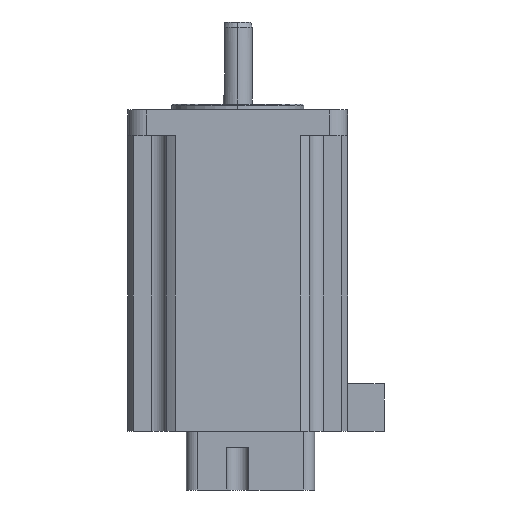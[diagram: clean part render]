
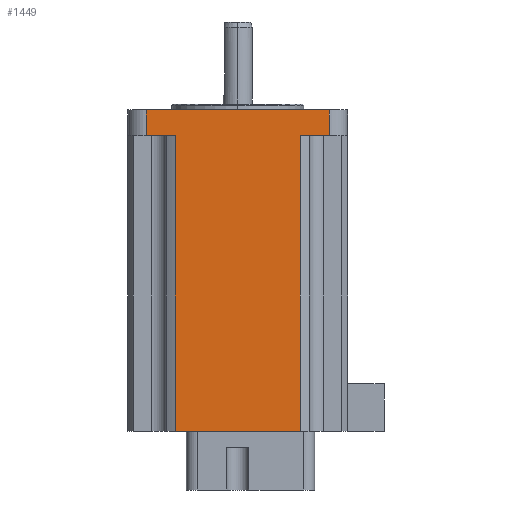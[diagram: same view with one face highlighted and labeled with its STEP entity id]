
A CAD part, left-side view. The second image highlights one B-rep face of the part: STEP entity #1449.
In plain terms, the highlighted planar face has unit normal (-1, 0, 0).
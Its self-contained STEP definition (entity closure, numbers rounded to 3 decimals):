
#62 = LINE ( 'NONE', #2259, #100 ) ;
#100 = VECTOR ( 'NONE', #2050, 1000. ) ;
#120 = LINE ( 'NONE', #530, #2473 ) ;
#132 = EDGE_CURVE ( 'NONE', #420, #1941, #2467, .T. ) ;
#181 = EDGE_LOOP ( 'NONE', ( #435, #528, #2083, #865, #507, #2332, #1094, #1195 ) ) ;
#281 = DIRECTION ( 'NONE',  ( 0., 0., -1. ) ) ;
#284 = CARTESIAN_POINT ( 'NONE',  ( -30., -25., -8.6 ) ) ;
#298 = VERTEX_POINT ( 'NONE', #1235 ) ;
#342 = CARTESIAN_POINT ( 'NONE',  ( -30., 17.037, -89.4 ) ) ;
#420 = VERTEX_POINT ( 'NONE', #2748 ) ;
#435 = ORIENTED_EDGE ( 'NONE', *, *, #2352, .F. ) ;
#460 = VECTOR ( 'NONE', #684, 1000. ) ;
#496 = VERTEX_POINT ( 'NONE', #580 ) ;
#498 = FACE_OUTER_BOUND ( 'NONE', #181, .T. ) ;
#507 = ORIENTED_EDGE ( 'NONE', *, *, #2752, .F. ) ;
#528 = ORIENTED_EDGE ( 'NONE', *, *, #132, .T. ) ;
#530 = CARTESIAN_POINT ( 'NONE',  ( -30., 17.037, -89.4 ) ) ;
#580 = CARTESIAN_POINT ( 'NONE',  ( -30., 25., -1.6 ) ) ;
#664 = DIRECTION ( 'NONE',  ( 0., 1., 0. ) ) ;
#684 = DIRECTION ( 'NONE',  ( 0., 0., 1. ) ) ;
#720 = CARTESIAN_POINT ( 'NONE',  ( -30., 30., -8.6 ) ) ;
#834 = DIRECTION ( 'NONE',  ( 0., 0., 1. ) ) ;
#865 = ORIENTED_EDGE ( 'NONE', *, *, #2334, .T. ) ;
#874 = CARTESIAN_POINT ( 'NONE',  ( -30., -17.037, -89.4 ) ) ;
#906 = CARTESIAN_POINT ( 'NONE',  ( -30., 17.037, -8.6 ) ) ;
#963 = VERTEX_POINT ( 'NONE', #906 ) ;
#1003 = LINE ( 'NONE', #2398, #1048 ) ;
#1006 = DIRECTION ( 'NONE',  ( 0., 1., 0. ) ) ;
#1047 = VERTEX_POINT ( 'NONE', #1610 ) ;
#1048 = VECTOR ( 'NONE', #1515, 1000. ) ;
#1094 = ORIENTED_EDGE ( 'NONE', *, *, #2084, .F. ) ;
#1175 = LINE ( 'NONE', #2478, #2545 ) ;
#1195 = ORIENTED_EDGE ( 'NONE', *, *, #1814, .T. ) ;
#1235 = CARTESIAN_POINT ( 'NONE',  ( -30., -17.037, -89.4 ) ) ;
#1277 = VERTEX_POINT ( 'NONE', #1772 ) ;
#1286 = CARTESIAN_POINT ( 'NONE',  ( -30., 0., -89.4 ) ) ;
#1369 = LINE ( 'NONE', #1286, #2466 ) ;
#1432 = DIRECTION ( 'NONE',  ( 0., 0., 1. ) ) ;
#1449 = ADVANCED_FACE ( 'NONE', ( #498 ), #2314, .F. ) ;
#1515 = DIRECTION ( 'NONE',  ( 0., 1., 0. ) ) ;
#1610 = CARTESIAN_POINT ( 'NONE',  ( -30., 25., -8.6 ) ) ;
#1650 = AXIS2_PLACEMENT_3D ( 'NONE', #720, #2269, #2279 ) ;
#1664 = EDGE_CURVE ( 'NONE', #1941, #496, #1923, .T. ) ;
#1727 = VECTOR ( 'NONE', #664, 1000. ) ;
#1772 = CARTESIAN_POINT ( 'NONE',  ( -30., -17.037, -8.6 ) ) ;
#1814 = EDGE_CURVE ( 'NONE', #298, #1277, #1885, .T. ) ;
#1862 = CARTESIAN_POINT ( 'NONE',  ( -30., -25., -1.6 ) ) ;
#1885 = LINE ( 'NONE', #874, #460 ) ;
#1923 = LINE ( 'NONE', #2003, #1727 ) ;
#1941 = VERTEX_POINT ( 'NONE', #1862 ) ;
#1955 = EDGE_CURVE ( 'NONE', #2605, #963, #120, .T. ) ;
#2003 = CARTESIAN_POINT ( 'NONE',  ( -30., 30., -1.6 ) ) ;
#2050 = DIRECTION ( 'NONE',  ( 0., 1., 0. ) ) ;
#2083 = ORIENTED_EDGE ( 'NONE', *, *, #1664, .T. ) ;
#2084 = EDGE_CURVE ( 'NONE', #298, #2605, #1369, .T. ) ;
#2259 = CARTESIAN_POINT ( 'NONE',  ( -30., 30., -8.6 ) ) ;
#2269 = DIRECTION ( 'NONE',  ( 1., 0., 0. ) ) ;
#2279 = DIRECTION ( 'NONE',  ( 0., 1., 0. ) ) ;
#2314 = PLANE ( 'NONE',  #1650 ) ;
#2332 = ORIENTED_EDGE ( 'NONE', *, *, #1955, .F. ) ;
#2334 = EDGE_CURVE ( 'NONE', #496, #1047, #1175, .T. ) ;
#2352 = EDGE_CURVE ( 'NONE', #420, #1277, #62, .T. ) ;
#2398 = CARTESIAN_POINT ( 'NONE',  ( -30., 30., -8.6 ) ) ;
#2407 = VECTOR ( 'NONE', #834, 1000. ) ;
#2466 = VECTOR ( 'NONE', #1006, 1000. ) ;
#2467 = LINE ( 'NONE', #284, #2407 ) ;
#2473 = VECTOR ( 'NONE', #1432, 1000. ) ;
#2478 = CARTESIAN_POINT ( 'NONE',  ( -30., 25., -8.6 ) ) ;
#2545 = VECTOR ( 'NONE', #281, 1000. ) ;
#2605 = VERTEX_POINT ( 'NONE', #342 ) ;
#2748 = CARTESIAN_POINT ( 'NONE',  ( -30., -25., -8.6 ) ) ;
#2752 = EDGE_CURVE ( 'NONE', #963, #1047, #1003, .T. ) ;
